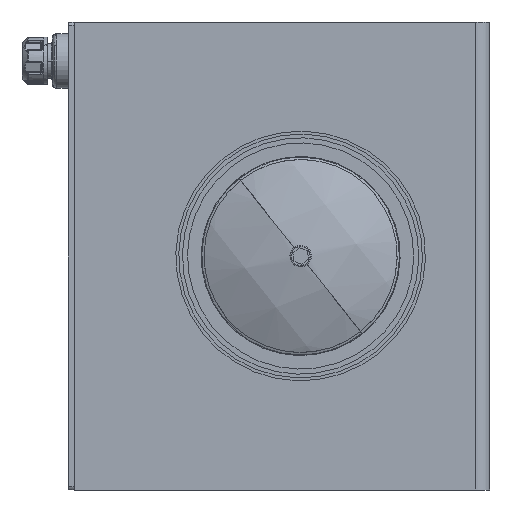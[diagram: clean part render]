
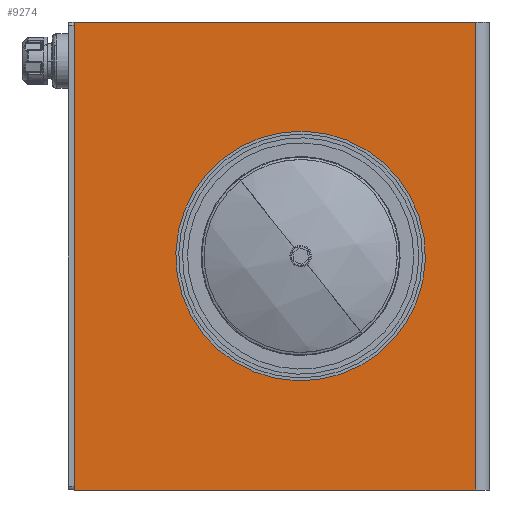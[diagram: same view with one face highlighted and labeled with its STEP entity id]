
A CAD part, left-side view. The second image highlights one B-rep face of the part: STEP entity #9274.
In plain terms, the highlighted planar face has unit normal (-1, 0, 0).
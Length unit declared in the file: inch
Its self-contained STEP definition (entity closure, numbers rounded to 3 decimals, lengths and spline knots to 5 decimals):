
#93 = CIRCLE ( 'NONE', #5116, 6.75 ) ;
#230 = ORIENTED_EDGE ( 'NONE', *, *, #9122, .F. ) ;
#429 = CARTESIAN_POINT ( 'NONE',  ( -31.7908, -8.50751, 3.72397 ) ) ;
#634 = DIRECTION ( 'NONE',  ( -1., 0., 0. ) ) ;
#879 = VECTOR ( 'NONE', #8197, 39.37008 ) ;
#1067 = VERTEX_POINT ( 'NONE', #2568 ) ;
#2042 = CARTESIAN_POINT ( 'NONE',  ( -31.7908, 11.75249, 15.18843 ) ) ;
#2151 = VERTEX_POINT ( 'NONE', #8422 ) ;
#2536 = EDGE_CURVE ( 'NONE', #10900, #1067, #16759, .T. ) ;
#2568 = CARTESIAN_POINT ( 'NONE',  ( -31.7908, -13.98151, 15.18843 ) ) ;
#2604 = CARTESIAN_POINT ( 'NONE',  ( -31.7908, -2.75751, 6.93843 ) ) ;
#2816 = VECTOR ( 'NONE', #7598, 39.37008 ) ;
#2885 = DIRECTION ( 'NONE',  ( 0., 0., 1. ) ) ;
#3042 = CARTESIAN_POINT ( 'NONE',  ( -31.7908, -13.98151, -14.81157 ) ) ;
#3280 = CARTESIAN_POINT ( 'NONE',  ( -31.7908, 11.75249, -14.81157 ) ) ;
#3282 = EDGE_CURVE ( 'NONE', #1067, #11171, #12951, .T. ) ;
#4062 = EDGE_LOOP ( 'NONE', ( #14514, #10837, #7293, #230, #15882 ) ) ;
#4282 = CARTESIAN_POINT ( 'NONE',  ( -31.7908, -8.62751, 0.18843 ) ) ;
#4717 = AXIS2_PLACEMENT_3D ( 'NONE', #3280, #17260, #8281 ) ;
#4756 = FACE_BOUND ( 'NONE', #4062, .T. ) ;
#5116 = AXIS2_PLACEMENT_3D ( 'NONE', #18729, #9621, #20327 ) ;
#5420 = ORIENTED_EDGE ( 'NONE', *, *, #18564, .T. ) ;
#6230 = EDGE_CURVE ( 'NONE', #9449, #11197, #7218, .T. ) ;
#6402 = EDGE_CURVE ( 'NONE', #11917, #9449, #11437, .T. ) ;
#6944 = VECTOR ( 'NONE', #12541, 39.37008 ) ;
#7199 = LINE ( 'NONE', #13808, #14675 ) ;
#7218 = LINE ( 'NONE', #4282, #2816 ) ;
#7293 = ORIENTED_EDGE ( 'NONE', *, *, #16899, .F. ) ;
#7598 = DIRECTION ( 'NONE',  ( 0., 0.034, 0.999 ) ) ;
#8150 = CARTESIAN_POINT ( 'NONE',  ( -31.7908, -14.87251, 15.18843 ) ) ;
#8197 = DIRECTION ( 'NONE',  ( 0., 1., 0. ) ) ;
#8240 = ORIENTED_EDGE ( 'NONE', *, *, #3282, .T. ) ;
#8281 = DIRECTION ( 'NONE',  ( 0., 0., -1. ) ) ;
#8422 = CARTESIAN_POINT ( 'NONE',  ( -31.7908, -2.75751, -6.56157 ) ) ;
#8585 = VECTOR ( 'NONE', #15208, 39.37008 ) ;
#8781 = VECTOR ( 'NONE', #2885, 39.37008 ) ;
#9102 = DIRECTION ( 'NONE',  ( -1., 0., 0. ) ) ;
#9122 = EDGE_CURVE ( 'NONE', #16290, #2151, #93, .T. ) ;
#9257 = DIRECTION ( 'NONE',  ( 0., -1., 0. ) ) ;
#9274 = ADVANCED_FACE ( 'NONE', ( #4756, #9461 ), #14179, .F. ) ;
#9449 = VERTEX_POINT ( 'NONE', #19095 ) ;
#9461 = FACE_OUTER_BOUND ( 'NONE', #10267, .T. ) ;
#9621 = DIRECTION ( 'NONE',  ( -1., 0., 0. ) ) ;
#10266 = CARTESIAN_POINT ( 'NONE',  ( -31.7908, -2.75751, 0.18843 ) ) ;
#10267 = EDGE_LOOP ( 'NONE', ( #12378, #8240, #19941, #5420 ) ) ;
#10837 = ORIENTED_EDGE ( 'NONE', *, *, #6402, .F. ) ;
#10900 = VERTEX_POINT ( 'NONE', #12105 ) ;
#11171 = VERTEX_POINT ( 'NONE', #2042 ) ;
#11197 = VERTEX_POINT ( 'NONE', #429 ) ;
#11437 = LINE ( 'NONE', #15493, #6944 ) ;
#11741 = DIRECTION ( 'NONE',  ( 0., 0., 1. ) ) ;
#11917 = VERTEX_POINT ( 'NONE', #15647 ) ;
#12105 = CARTESIAN_POINT ( 'NONE',  ( -31.7908, -13.98151, -14.81157 ) ) ;
#12378 = ORIENTED_EDGE ( 'NONE', *, *, #2536, .T. ) ;
#12541 = DIRECTION ( 'NONE',  ( 0., -0.034, 0.999 ) ) ;
#12555 = LINE ( 'NONE', #20013, #8585 ) ;
#12951 = LINE ( 'NONE', #8150, #879 ) ;
#13808 = CARTESIAN_POINT ( 'NONE',  ( -31.7908, -14.87251, -14.81157 ) ) ;
#14179 = PLANE ( 'NONE',  #4717 ) ;
#14514 = ORIENTED_EDGE ( 'NONE', *, *, #6230, .F. ) ;
#14675 = VECTOR ( 'NONE', #9257, 39.37008 ) ;
#15208 = DIRECTION ( 'NONE',  ( 0., 0., -1. ) ) ;
#15493 = CARTESIAN_POINT ( 'NONE',  ( -31.7908, -8.62751, 0.18843 ) ) ;
#15647 = CARTESIAN_POINT ( 'NONE',  ( -31.7908, -8.50751, -3.3471 ) ) ;
#15868 = CIRCLE ( 'NONE', #17690, 6.75 ) ;
#15882 = ORIENTED_EDGE ( 'NONE', *, *, #17393, .F. ) ;
#16290 = VERTEX_POINT ( 'NONE', #2604 ) ;
#16759 = LINE ( 'NONE', #3042, #8781 ) ;
#16899 = EDGE_CURVE ( 'NONE', #2151, #11917, #18660, .T. ) ;
#17036 = CARTESIAN_POINT ( 'NONE',  ( -31.7908, 11.75249, -14.81157 ) ) ;
#17260 = DIRECTION ( 'NONE',  ( 1., 0., 0. ) ) ;
#17393 = EDGE_CURVE ( 'NONE', #11197, #16290, #15868, .T. ) ;
#17690 = AXIS2_PLACEMENT_3D ( 'NONE', #18207, #9102, #19780 ) ;
#18090 = AXIS2_PLACEMENT_3D ( 'NONE', #10266, #634, #11741 ) ;
#18207 = CARTESIAN_POINT ( 'NONE',  ( -31.7908, -2.75751, 0.18843 ) ) ;
#18564 = EDGE_CURVE ( 'NONE', #20006, #10900, #7199, .T. ) ;
#18660 = CIRCLE ( 'NONE', #18090, 6.75 ) ;
#18729 = CARTESIAN_POINT ( 'NONE',  ( -31.7908, -2.75751, 0.18843 ) ) ;
#19095 = CARTESIAN_POINT ( 'NONE',  ( -31.7908, -8.62751, 0.18843 ) ) ;
#19780 = DIRECTION ( 'NONE',  ( 0., 0., 1. ) ) ;
#19854 = EDGE_CURVE ( 'NONE', #11171, #20006, #12555, .T. ) ;
#19941 = ORIENTED_EDGE ( 'NONE', *, *, #19854, .T. ) ;
#20006 = VERTEX_POINT ( 'NONE', #17036 ) ;
#20013 = CARTESIAN_POINT ( 'NONE',  ( -31.7908, 11.75249, -14.81157 ) ) ;
#20327 = DIRECTION ( 'NONE',  ( 0., 0., 1. ) ) ;
